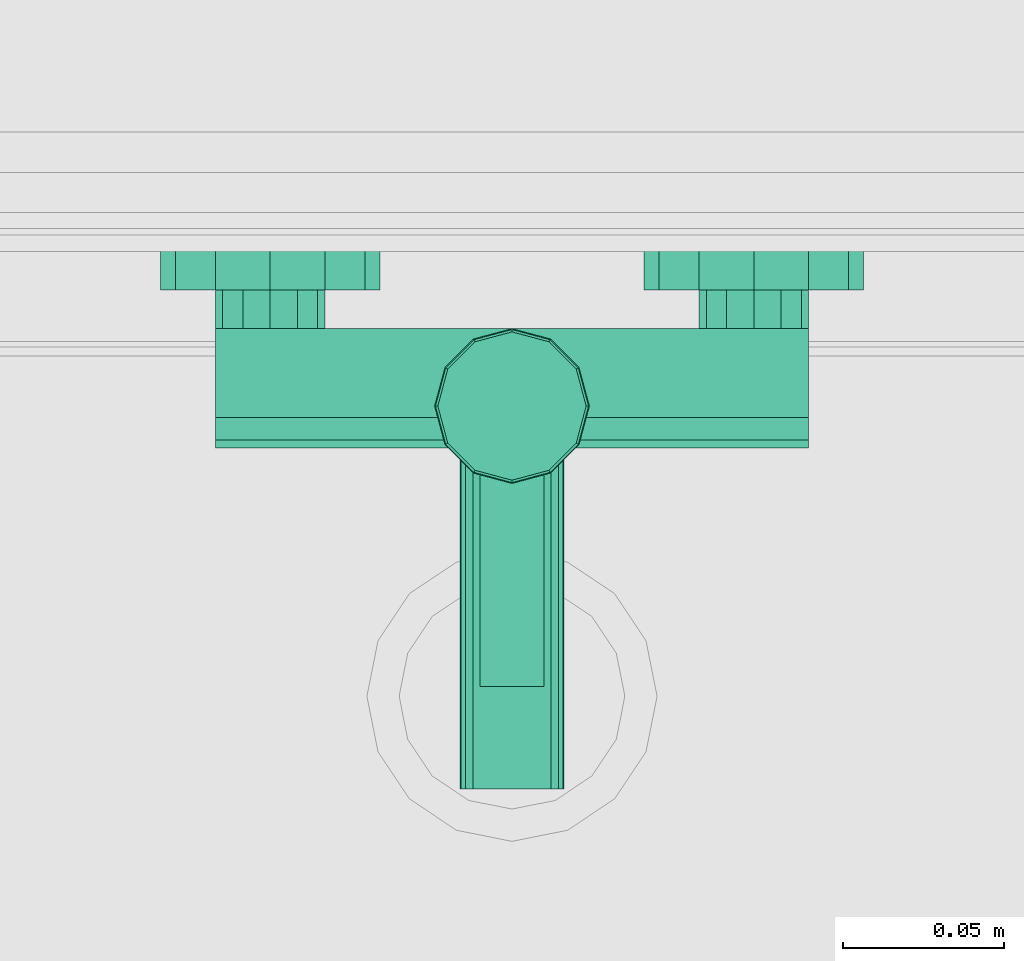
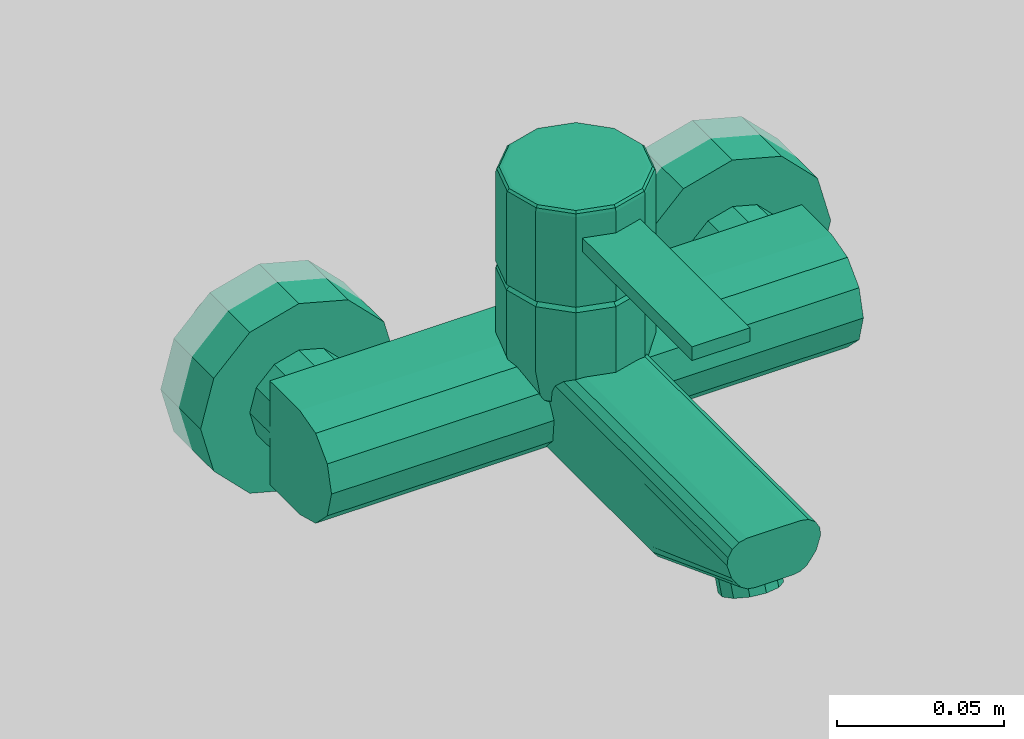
# One storey, part 108 of 137: 1 flow storage device.
"""IFC2X3 building model written with IfcOpenShell, lengths in millimetres."""

from ifc_helpers import new_model, entity, si_unit, converted_unit, derived_unit, money_unit, direction, frame, origin_with_axes, place, context, subcontext, project, spatial, open_shell, faceted_brep, surface_model, source, transform, mapped, type_object, type_shapes, element, save


model = new_model("IFC2X3")

# Units and contexts
model_context = context("Model", 3, precision=0.01, world=origin_with_axes(), true_north=direction((0.0, 1.0)))
body_context = subcontext(model_context, "Body", "Model", "MODEL_VIEW")
ifc_project = project(units=[si_unit("LENGTHUNIT", "METRE", prefix="MILLI"), si_unit("AREAUNIT", "SQUARE_METRE"), si_unit("VOLUMEUNIT", "CUBIC_METRE"), converted_unit("PLANEANGLEUNIT", "DEGREE", entity("IfcPlaneAngleMeasure", 0.0174532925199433), si_unit("PLANEANGLEUNIT", "RADIAN"), dimensions=[0, 0, 0, 0, 0, 0, 0]), money_unit("EUR"), converted_unit("TIMEUNIT", "Year", entity("IfcTimeMeasure", 31556926.0), si_unit("TIMEUNIT", "SECOND"), dimensions=[0, 0, 1, 0, 0, 0, 0]), si_unit("MASSUNIT", "GRAM", prefix="KILO"), si_unit("THERMODYNAMICTEMPERATUREUNIT", "DEGREE_CELSIUS"), si_unit("LUMINOUSINTENSITYUNIT", "LUMEN"), si_unit("ENERGYUNIT", "JOULE", prefix="MEGA"), derived_unit("THERMALCONDUCTANCEUNIT", [(si_unit("POWERUNIT", "WATT"), 1), (si_unit("LENGTHUNIT", "METRE"), -1), (si_unit("THERMODYNAMICTEMPERATUREUNIT", "KELVIN"), -1)]), derived_unit("SPECIFICHEATCAPACITYUNIT", [(si_unit("ENERGYUNIT", "JOULE"), 1), (si_unit("MASSUNIT", "GRAM", prefix="KILO"), -1), (si_unit("THERMODYNAMICTEMPERATUREUNIT", "KELVIN"), -1)]), derived_unit("MASSDENSITYUNIT", [(si_unit("MASSUNIT", "GRAM", prefix="KILO"), 1), (si_unit("VOLUMEUNIT", "CUBIC_METRE"), -1)])], contexts=[model_context])

# Site, building, storey
site_placement = place(None, origin_with_axes())
site = spatial("IfcSite", under=ifc_project, at=site_placement, Name="Site", CompositionType="ELEMENT")
building_placement = place(site_placement, origin_with_axes())
building = spatial("IfcBuilding", under=site, at=building_placement, Name="Naam gebouw", CompositionType="ELEMENT")
storey_placement = place(building_placement, frame((0.0, 0.0, 3960.0), z_axis=(0.0, 0.0, 1.0), x_axis=(1.0, 0.0, 0.0)))
storey = spatial("IfcBuildingStorey", under=building, at=storey_placement, Name="1e verdieping", CompositionType="ELEMENT", Elevation=3960.0)

# Flow storage device
tank_type = type_object("IfcTankType", Name="Kraan wand 26", PredefinedType="EXPANSION")
shared_shape = source(origin_with_axes(), body_context, "Body", "SurfaceModel", [
    faceted_brep([(-45.55513627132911, 0.0, 1183.0), (-58.00000000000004, 0.0, 1170.555136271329), (-75.00000000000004, 0.0, 1166.0), (-92.00000000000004, 0.0, 1170.555136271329), (-104.4448637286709, 0.0, 1183.0), (-109.0, 0.0, 1200.0), (-104.4448637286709, 0.0, 1217.0), (-92.0, 0.0, 1229.444863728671), (-75.0, 0.0, 1234.0), (-58.0, 0.0, 1229.444863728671), (-45.5551362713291, 0.0, 1217.0), (-41.00000000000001, 0.0, 1200.0), (-45.55513627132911, -24.0, 1183.0), (-58.00000000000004, -24.0, 1170.555136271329), (-75.00000000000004, -24.0, 1166.0), (-92.00000000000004, -24.0, 1170.555136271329), (-104.4448637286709, -24.0, 1183.0), (-109.0, -24.0, 1200.0), (-104.4448637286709, -24.0, 1217.0), (-92.0, -24.0, 1229.444863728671), (-75.0, -24.0, 1234.0), (-58.0, -24.0, 1229.444863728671), (-45.5551362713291, -24.0, 1217.0), (-41.00000000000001, -24.0, 1200.0)], [[[0, 1, 2, 3, 4, 5, 6, 7, 8, 9, 10, 11]], [[1, 0, 12, 13]], [[2, 1, 13, 14]], [[3, 2, 14, 15]], [[4, 3, 15, 16]], [[5, 4, 16, 17]], [[6, 5, 17, 18]], [[7, 6, 18, 19]], [[8, 7, 19, 20]], [[9, 8, 20, 21]], [[10, 9, 21, 22]], [[11, 10, 22, 23]], [[0, 11, 23, 12]], [[12, 23, 22, 21, 20, 19, 18, 17, 16, 15, 14, 13]]]),
    faceted_brep([(-60.27756813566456, -24.0, 1191.5), (-66.50000000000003, -24.0, 1185.277568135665), (-75.00000000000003, -24.0, 1183.0), (-83.50000000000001, -24.0, 1185.277568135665), (-89.72243186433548, -24.0, 1191.5), (-92.00000000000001, -24.0, 1200.0), (-89.72243186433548, -24.0, 1208.5), (-83.5, -24.0, 1214.722431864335), (-75.00000000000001, -24.0, 1217.0), (-66.5, -24.0, 1214.722431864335), (-60.27756813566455, -24.0, 1208.5), (-58.00000000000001, -24.0, 1200.0), (-60.27756813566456, -36.00000000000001, 1191.5), (-66.50000000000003, -36.00000000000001, 1185.277568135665), (-75.00000000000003, -36.00000000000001, 1183.0), (-83.50000000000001, -36.00000000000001, 1185.277568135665), (-89.72243186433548, -36.00000000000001, 1191.5), (-92.00000000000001, -36.00000000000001, 1200.0), (-89.72243186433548, -36.00000000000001, 1208.5), (-83.5, -36.0, 1214.722431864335), (-75.00000000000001, -36.0, 1217.0), (-66.5, -36.0, 1214.722431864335), (-60.27756813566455, -36.00000000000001, 1208.5), (-58.00000000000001, -36.00000000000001, 1200.0)], [[[0, 1, 2, 3, 4, 5, 6, 7, 8, 9, 10, 11]], [[1, 0, 12, 13]], [[2, 1, 13, 14]], [[3, 2, 14, 15]], [[4, 3, 15, 16]], [[5, 4, 16, 17]], [[6, 5, 17, 18]], [[7, 6, 18, 19]], [[8, 7, 19, 20]], [[9, 8, 20, 21]], [[10, 9, 21, 22]], [[11, 10, 22, 23]], [[0, 11, 23, 12]], [[12, 23, 22, 21, 20, 19, 18, 17, 16, 15, 14, 13]]]),
    faceted_brep([(45.55513627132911, 0.0, 1183.0), (41.00000000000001, 0.0, 1200.0), (45.5551362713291, 0.0, 1217.0), (58.0, 0.0, 1229.444863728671), (75.0, 0.0, 1234.0), (92.0, 0.0, 1229.444863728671), (104.4448637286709, 0.0, 1217.0), (109.0, 0.0, 1200.0), (104.4448637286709, 0.0, 1183.0), (92.00000000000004, 0.0, 1170.555136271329), (75.00000000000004, 0.0, 1166.0), (58.00000000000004, 0.0, 1170.555136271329), (45.55513627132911, -24.0, 1183.0), (41.00000000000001, -24.0, 1200.0), (45.5551362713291, -24.0, 1217.0), (58.0, -24.0, 1229.444863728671), (75.0, -24.0, 1234.0), (92.0, -24.0, 1229.444863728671), (104.4448637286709, -24.0, 1217.0), (109.0, -24.0, 1200.0), (104.4448637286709, -24.0, 1183.0), (92.00000000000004, -24.0, 1170.555136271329), (75.00000000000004, -24.0, 1166.0), (58.00000000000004, -24.0, 1170.555136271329)], [[[0, 1, 2, 3, 4, 5, 6, 7, 8, 9, 10, 11]], [[0, 12, 13, 1]], [[1, 13, 14, 2]], [[2, 14, 15, 3]], [[3, 15, 16, 4]], [[4, 16, 17, 5]], [[5, 17, 18, 6]], [[6, 18, 19, 7]], [[7, 19, 20, 8]], [[8, 20, 21, 9]], [[9, 21, 22, 10]], [[10, 22, 23, 11]], [[11, 23, 12, 0]], [[12, 23, 22, 21, 20, 19, 18, 17, 16, 15, 14, 13]]]),
    faceted_brep([(60.27756813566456, -24.0, 1191.5), (58.00000000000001, -24.0, 1200.0), (60.27756813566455, -24.0, 1208.5), (66.5, -24.0, 1214.722431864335), (75.00000000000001, -24.0, 1217.0), (83.5, -24.0, 1214.722431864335), (89.72243186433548, -24.0, 1208.5), (92.00000000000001, -24.0, 1200.0), (89.72243186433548, -24.0, 1191.5), (83.50000000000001, -24.0, 1185.277568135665), (75.00000000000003, -24.0, 1183.0), (66.50000000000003, -24.0, 1185.277568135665), (60.27756813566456, -36.00000000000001, 1191.5), (58.00000000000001, -36.00000000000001, 1200.0), (60.27756813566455, -36.00000000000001, 1208.5), (66.5, -36.0, 1214.722431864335), (75.00000000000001, -36.0, 1217.0), (83.5, -36.0, 1214.722431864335), (89.72243186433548, -36.00000000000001, 1208.5), (92.00000000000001, -36.00000000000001, 1200.0), (89.72243186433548, -36.00000000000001, 1191.5), (83.50000000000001, -36.00000000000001, 1185.277568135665), (75.00000000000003, -36.00000000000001, 1183.0), (66.50000000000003, -36.00000000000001, 1185.277568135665)], [[[0, 1, 2, 3, 4, 5, 6, 7, 8, 9, 10, 11]], [[0, 12, 13, 1]], [[1, 13, 14, 2]], [[2, 14, 15, 3]], [[3, 15, 16, 4]], [[4, 16, 17, 5]], [[5, 17, 18, 6]], [[6, 18, 19, 7]], [[7, 19, 20, 8]], [[8, 20, 21, 9]], [[9, 21, 22, 10]], [[10, 22, 23, 11]], [[11, 23, 12, 0]], [[12, 23, 22, 21, 20, 19, 18, 17, 16, 15, 14, 13]]]),
    faceted_brep([(22.39230484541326, -54.0, 1219.0), (23.56921938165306, -59.99999999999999, 1217.392304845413), (22.3801085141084, -63.5, 1216.454482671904), (92.0, -63.5, 1216.454482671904), (92.0, -54.0, 1219.0), (24.0, -59.99999999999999, 1219.0), (20.78460969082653, -72.0, 1219.0), (18.42264973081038, -70.63632178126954, 1208.821367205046), (18.65321248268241, -70.45448267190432, 1209.5), (92.0, -70.45448267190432, 1209.5), (92.0, -36.00000000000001, 1181.0), (92.0, -36.00000000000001, 1219.0), (92.0, -73.00000000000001, 1200.0), (92.0, -70.45448267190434, 1190.5), (92.0, -63.5, 1183.545517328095), (92.0, -54.00000000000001, 1181.0), (20.78460969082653, -47.99999999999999, 1219.0), (0.0, -36.00000000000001, 1219.0), (12.0, -39.21539030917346, 1219.0), (20.78460969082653, -47.99999999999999, 1243.0), (24.0, -59.99999999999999, 1243.0), (20.78460969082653, -72.0, 1243.0), (17.26794919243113, -71.12435565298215, 1207.0), (12.00000000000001, -80.78460969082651, 1219.0), (11.92314238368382, -80.65148839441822, 1218.426326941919), (12.07189135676, -80.49116546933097, 1218.39470631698), (14.42686544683, -77.50984837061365, 1216.68350539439), (15.88213414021, -75.13176694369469, 1214.16233412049), (16.18602173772, -73.76818909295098, 1211.26720650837), (15.73684210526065, -72.65546274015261, 1207.0), (15.6314139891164, -71.39272474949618, 1205.998432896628), (14.99999999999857, -73.00000000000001, 1200.0), (-92.0, -36.00000000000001, 1181.0), (-92.0, -36.00000000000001, 1219.0), (14.00000000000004, -70.45448267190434, 1190.5), (12.93483876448, -64.77581392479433, 1184.82133125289), (11.95567316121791, -63.5, 1183.545517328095), (13.65970594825, -67.22168918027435, 1187.26720650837), (9.206486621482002, -55.73480068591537, 1181.46483844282), (6.698167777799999, -54.00000000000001, 1181.0), (11.38167317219, -60.70880215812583, 1182.79761812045), (-6.698167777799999, -54.00000000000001, 1181.0), (-92.0, -54.00000000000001, 1181.0), (6.698167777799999, -128.7, 1181.0), (-6.698167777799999, -128.7, 1181.0), (0.0, -36.00000000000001, 1243.0), (12.0, -39.21539030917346, 1243.0), (19.05255888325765, -48.99999999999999, 1245.0), (22.0, -59.99999999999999, 1245.0), (19.05255888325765, -71.0, 1245.0), (12.00000000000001, -80.78460969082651, 1243.0), (9.224483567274, -81.52830707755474, 1219.0), (9.224483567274, -178.7, 1219.0), (12.07189135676, -178.7, 1218.39470631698), (14.42686544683, -178.7, 1216.68350539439), (15.88213414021, -178.7, 1214.16233412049), (16.18602173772, -178.7, 1211.26720650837), (13.65970594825, -128.7, 1187.26720650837), (-92.0, -54.0, 1219.0), (-92.0, -63.5, 1183.545517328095), (-92.0, -70.45448267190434, 1190.5), (-92.0, -73.00000000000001, 1200.0), (-92.0, -70.45448267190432, 1209.5), (-92.0, -63.5, 1216.454482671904), (-12.00000000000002, -39.21539030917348, 1219.0), (-22.39230484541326, -54.0, 1219.0), (-20.78460969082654, -48.00000000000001, 1219.0), (12.93483876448, -128.7, 1184.82133125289), (11.38167317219, -128.7, 1182.79761812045), (9.206486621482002, -128.7, 1181.46483844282), (-11.38167317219, -60.70880215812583, 1182.79761812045), (-11.95567316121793, -63.5, 1183.545517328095), (-9.206486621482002, -55.73480068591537, 1181.46483844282), (-6.698167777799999, -156.6122297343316, 1191.606647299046), (6.698167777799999, -156.6122297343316, 1191.606647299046), (5.000000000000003, -155.02481037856, 1191.003427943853), (0.0, -153.7724378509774, 1190.527526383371), (-4.999999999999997, -155.02481037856, 1191.003427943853), (-9.206486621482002, -128.7, 1181.46483844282), (-12.00000000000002, -39.21539030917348, 1243.0), (0.0, -38.00000000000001, 1245.0), (11.0, -40.94744111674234, 1245.0), (-20.78460969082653, -47.99999999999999, 1245.0), (-12.0, -39.21539030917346, 1245.0), (0.0, -36.00000000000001, 1245.0), (12.00000000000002, -39.21539030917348, 1245.0), (20.78460969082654, -48.00000000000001, 1245.0), (24.0, -60.00000000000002, 1245.0), (20.78460969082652, -72.00000000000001, 1245.0), (11.99999999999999, -80.78460969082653, 1245.0), (0.0, -83.99999999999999, 1245.0), (-12.00000000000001, -80.78460969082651, 1245.0), (-20.78460969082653, -72.0, 1245.0), (-24.0, -59.99999999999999, 1245.0), (11.00000000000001, -79.05255888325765, 1245.0), (-11.00000000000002, -40.94744111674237, 1245.0), (-19.05255888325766, -49.00000000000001, 1245.0), (-22.0, -60.00000000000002, 1245.0), (-19.05255888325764, -71.00000000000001, 1245.0), (-10.99999999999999, -79.05255888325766, 1245.0), (0.0, -81.99999999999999, 1245.0), (0.0, -83.99999999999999, 1243.0), (0.0, -83.99999999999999, 1219.0), (-15.88213414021, -178.7, 1214.16233412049), (-16.18602173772, -178.7, 1211.26720650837), (-14.65970594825, -178.7, 1206.26720650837), (-12.93483876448, -178.7, 1203.82133125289), (-11.38167317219, -178.7, 1201.79761812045), (-9.206486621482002, -178.7, 1200.46483844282), (-6.698167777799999, -178.7, 1200.0), (6.698167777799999, -178.7, 1200.0), (9.206486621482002, -178.7, 1200.46483844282), (11.38167317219, -178.7, 1201.79761812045), (12.93483876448, -178.7, 1203.82133125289), (14.65970594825, -178.7, 1206.26720650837), (-9.224483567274, -178.7, 1219.0), (-12.07189135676, -178.7, 1218.39470631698), (-14.42686544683, -178.7, 1216.68350539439), (-9.224483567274, -81.52830707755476, 1219.0), (-13.65970594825, -67.22168918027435, 1187.26720650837), (-14.00000000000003, -70.45448267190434, 1190.5), (-12.93483876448, -64.77581392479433, 1184.82133125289), (-14.99999999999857, -73.00000000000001, 1200.0), (-18.42264973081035, -70.63632178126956, 1208.821367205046), (-18.65321248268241, -70.45448267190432, 1209.5), (-15.63141398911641, -71.39272474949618, 1205.998432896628), (-17.26794919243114, -71.12435565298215, 1207.0), (-22.38010851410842, -63.5, 1216.454482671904), (-23.56921938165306, -60.00000000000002, 1217.392304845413), (-24.0, -60.00000000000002, 1219.0), (-24.0, -60.00000000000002, 1243.0), (-20.78460969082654, -48.00000000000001, 1243.0), (9.206486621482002, -160.1976250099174, 1193.433935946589), (8.660254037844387, -158.3256179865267, 1192.621346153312), (9.206486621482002, -165.7342214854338, 1195.537842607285), (10.0, -162.8044792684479, 1194.910741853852), (-11.38167317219, -128.7, 1182.79761812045), (-12.93483876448, -128.7, 1184.82133125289), (-9.206486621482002, -160.1976250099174, 1193.433935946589), (-8.660254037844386, -158.3256179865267, 1192.621346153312), (8.660254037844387, -160.222444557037, 1187.629697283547), (5.000000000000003, -156.8008991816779, 1186.329510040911), (0.0, -155.5485266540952, 1185.85360848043), (-4.999999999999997, -156.8008991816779, 1186.329510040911), (-8.660254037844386, -160.222444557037, 1187.629697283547), (-20.78460969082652, -47.99999999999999, 1278.0), (-12.0, -39.21539030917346, 1278.0), (0.0, -36.00000000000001, 1278.0), (12.00000000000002, -39.21539030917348, 1278.0), (20.78460969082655, -48.00000000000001, 1278.0), (24.0, -60.00000000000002, 1278.0), (20.78460969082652, -72.00000000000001, 1278.0), (11.99999999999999, -80.78460969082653, 1278.0), (0.0, -83.99999999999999, 1278.0), (0.0, -83.99999999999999, 1270.0), (10.0, -81.32050807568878, 1270.0), (10.0, -81.32050807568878, 1265.0), (0.0, -83.99999999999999, 1265.0), (-10.0, -81.32050807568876, 1265.0), (-10.0, -81.32050807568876, 1270.0), (-12.00000000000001, -80.78460969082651, 1278.0), (-20.78460969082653, -72.0, 1278.0), (-24.0, -59.99999999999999, 1278.0), (-20.78460969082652, -72.00000000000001, 1243.0), (-11.99999999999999, -80.78460969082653, 1243.0), (-11.99999999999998, -80.78460969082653, 1219.0), (-15.88213414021, -75.1317669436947, 1214.16233412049), (-16.18602173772, -73.76818909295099, 1211.26720650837), (-16.18602173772, -128.7, 1211.26720650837), (-13.65970594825, -128.7, 1187.26720650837), (-10.0, -162.8044792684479, 1194.910741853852), (-9.206486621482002, -165.7342214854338, 1195.537842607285), (-8.66025403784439, -167.6734537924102, 1196.173523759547), (-6.698167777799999, -169.6283175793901, 1196.552760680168), (0.0, -172.4681094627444, 1197.631881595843), (4.999999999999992, -171.2157369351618, 1197.155980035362), (6.698167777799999, -169.6283175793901, 1196.552760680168), (-5.000000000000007, -171.2157369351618, 1197.155980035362), (8.660254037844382, -167.6734537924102, 1196.173523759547), (-11.92314238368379, -80.65148839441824, 1218.426326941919), (-12.07189135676, -80.49116546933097, 1218.39470631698), (-14.42686544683, -77.50984837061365, 1216.68350539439), (-15.73684210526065, -72.65546274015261, 1207.0), (-20.78460969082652, -72.00000000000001, 1219.0), (10.0, -164.8963624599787, 1189.405786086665), (8.660254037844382, -169.5702803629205, 1191.181874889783), (-10.0, -164.8963624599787, 1189.405786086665), (4.999999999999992, -172.9918257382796, 1192.48206213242), (0.0, -174.2441982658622, 1192.957963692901), (-5.000000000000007, -172.9918257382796, 1192.48206213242), (-8.66025403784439, -169.5702803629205, 1191.181874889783), (-20.55255888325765, -48.13397459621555, 1279.0), (-11.86602540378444, -39.44744111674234, 1279.0), (0.0, -36.26794919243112, 1279.0), (11.86602540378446, -39.44744111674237, 1279.0), (20.55255888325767, -48.13397459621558, 1279.0), (23.73205080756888, -60.00000000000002, 1279.0), (20.55255888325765, -71.86602540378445, 1279.0), (11.86602540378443, -80.55255888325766, 1279.0), (10.0, -147.0, 1270.0), (-10.0, -147.0, 1270.0), (10.0, -147.0, 1265.0), (-10.0, -147.0, 1265.0), (0.0, -83.73205080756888, 1279.0), (-11.86602540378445, -80.55255888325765, 1279.0), (-20.55255888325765, -71.86602540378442, 1279.0), (-23.73205080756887, -59.99999999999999, 1279.0), (-19.91858428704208, -48.49999999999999, 1279.732050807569), (-11.5, -40.08141571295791, 1279.732050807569), (0.0, -37.00000000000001, 1279.732050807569), (11.50000000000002, -40.08141571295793, 1279.732050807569), (19.9185842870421, -48.50000000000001, 1279.732050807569), (23.0, -60.00000000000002, 1279.732050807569), (19.91858428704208, -71.50000000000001, 1279.732050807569), (11.49999999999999, -79.9185842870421, 1279.732050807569), (0.0, -82.99999999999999, 1279.732050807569), (-11.50000000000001, -79.91858428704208, 1279.732050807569), (-19.91858428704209, -71.5, 1279.732050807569), (-23.0, -59.99999999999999, 1279.732050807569), (-19.05255888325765, -48.99999999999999, 1280.0), (-11.0, -40.94744111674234, 1280.0), (0.0, -38.00000000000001, 1280.0), (11.00000000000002, -40.94744111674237, 1280.0), (19.05255888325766, -49.00000000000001, 1280.0), (22.0, -60.00000000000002, 1280.0), (19.05255888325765, -71.00000000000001, 1280.0), (10.99999999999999, -79.05255888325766, 1280.0), (0.0, -81.99999999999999, 1280.0), (-11.00000000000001, -79.05255888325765, 1280.0), (-19.05255888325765, -71.0, 1280.0), (-22.0, -59.99999999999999, 1280.0), (0.0, -60.0, 1280.0)], [[[0, 1, 2, 3, 4]], [[1, 0, 5]], [[2, 1, 5, 6, 7, 8]], [[2, 8, 9, 3]], [[10, 11, 4, 3, 9, 12, 13, 14, 15]], [[16, 0, 4, 11, 17, 18]], [[0, 16, 19, 20, 5]], [[20, 21, 6, 5]], [[22, 7, 6, 23, 24, 25, 26, 27, 28, 29]], [[30, 31, 12, 9, 8, 7, 22]], [[10, 32, 33, 17, 11]], [[31, 34, 13, 12]], [[35, 36, 14, 13, 34, 37]], [[38, 39, 15, 14, 36, 40]], [[41, 42, 32, 10, 15, 39, 43, 44]], [[18, 17, 45, 46]], [[16, 18, 46, 19]], [[19, 47, 48, 20]], [[20, 48, 49, 21]], [[21, 50, 23, 6]], [[23, 51, 24]], [[52, 53, 25, 24, 51]], [[53, 54, 26, 25]], [[54, 55, 27, 26]], [[56, 28, 27, 55]], [[31, 30, 29, 28, 56, 57, 37, 34]], [[30, 22, 29]], [[58, 33, 32, 42, 59, 60, 61, 62, 63]], [[64, 17, 33, 58, 65, 66]], [[36, 35, 67, 68, 40]], [[35, 37, 57, 67]], [[39, 38, 69, 43]], [[38, 40, 68, 69]], [[70, 71, 59, 42, 41, 72]], [[73, 44, 43, 74, 75, 76, 77]], [[72, 41, 44, 78]], [[17, 64, 79, 45]], [[45, 80, 81, 46]], [[46, 81, 47, 19]], [[82, 83, 84, 85, 86, 87, 88, 89, 90, 91, 92, 93], [94, 49, 48, 47, 81, 80, 95, 96, 97, 98, 99, 100]], [[21, 49, 94, 50]], [[101, 102, 51, 23, 50]], [[103, 104, 105, 106, 107, 108, 109, 110, 111, 112, 113, 114, 56, 55, 54, 53, 52, 115, 116, 117]], [[115, 52, 51, 102, 118]], [[56, 114, 57]], [[119, 120, 60, 59, 71, 121]], [[120, 122, 61, 60]], [[123, 124, 62, 61, 122, 125, 126]], [[124, 127, 63, 62]], [[128, 65, 58, 63, 127]], [[66, 65, 129, 130, 131]], [[64, 66, 131, 79]], [[112, 68, 67, 113]], [[114, 67, 57]], [[74, 43, 69, 132, 133]], [[132, 69, 68, 112, 111, 134, 135]], [[71, 70, 136, 137, 121]], [[70, 72, 78, 136]], [[138, 78, 44, 73, 139]], [[75, 74, 133, 140, 141]], [[142, 76, 75, 141]], [[143, 77, 76, 142]], [[139, 73, 77, 143, 144]], [[79, 95, 80, 45]], [[83, 82, 145, 146]], [[84, 83, 146, 147]], [[85, 84, 147, 148]], [[86, 85, 148, 149]], [[87, 86, 149, 150]], [[88, 87, 150, 151]], [[89, 88, 151, 152]], [[153, 154, 155, 156, 157, 90, 89, 152]], [[158, 159, 154, 153, 160, 91, 90, 157]], [[92, 91, 160, 161]], [[93, 92, 161, 162]], [[82, 93, 162, 145]], [[131, 96, 95, 79]], [[130, 97, 96, 131]], [[163, 98, 97, 130]], [[164, 99, 98, 163]], [[101, 100, 99, 164]], [[50, 94, 100, 101]], [[165, 118, 102, 101, 164]], [[104, 103, 166, 167, 168]], [[105, 104, 168]], [[106, 105, 169]], [[106, 137, 136, 107]], [[107, 136, 78, 138, 170, 171, 108]], [[171, 172, 173, 109, 108]], [[174, 175, 176, 110, 109, 173, 177]], [[176, 178, 134, 111, 110]], [[114, 113, 67]], [[116, 115, 118, 179, 180]], [[117, 116, 180, 181]], [[103, 117, 181, 166]], [[120, 119, 169, 168, 167, 182, 125, 122]], [[119, 121, 137, 169]], [[124, 123, 183, 129, 128, 127]], [[126, 125, 182]], [[123, 126, 182, 167, 166, 181, 180, 179, 165, 183]], [[65, 128, 129]], [[163, 130, 129, 183]], [[133, 132, 135, 184, 140]], [[135, 134, 178, 185, 184]], [[170, 138, 139, 144, 186]], [[140, 184, 185, 187, 188, 189, 190, 186, 144, 143, 142, 141]], [[146, 145, 191, 192]], [[147, 146, 192, 193]], [[148, 147, 193, 194]], [[149, 148, 194, 195]], [[150, 149, 195, 196]], [[151, 150, 196, 197]], [[152, 151, 197, 198]], [[199, 155, 154, 159, 200]], [[201, 156, 155, 199]], [[158, 157, 156, 201, 202]], [[153, 152, 198, 203]], [[200, 159, 158, 202]], [[160, 153, 203, 204]], [[161, 160, 204, 205]], [[162, 161, 205, 206]], [[145, 162, 206, 191]], [[164, 163, 183, 165]], [[165, 179, 118]], [[105, 168, 169]], [[106, 169, 137]], [[172, 171, 170, 186, 190]], [[177, 173, 172, 190, 189]], [[187, 175, 174, 188]], [[178, 176, 175, 187, 185]], [[188, 174, 177, 189]], [[192, 191, 207, 208]], [[193, 192, 208, 209]], [[194, 193, 209, 210]], [[195, 194, 210, 211]], [[196, 195, 211, 212]], [[197, 196, 212, 213]], [[198, 197, 213, 214]], [[199, 200, 202, 201]], [[203, 198, 214, 215]], [[204, 203, 215, 216]], [[205, 204, 216, 217]], [[206, 205, 217, 218]], [[191, 206, 218, 207]], [[208, 207, 219, 220]], [[209, 208, 220, 221]], [[210, 209, 221, 222]], [[211, 210, 222, 223]], [[212, 211, 223, 224]], [[213, 212, 224, 225]], [[214, 213, 225, 226]], [[215, 214, 226, 227]], [[216, 215, 227, 228]], [[217, 216, 228, 229]], [[218, 217, 229, 230]], [[207, 218, 230, 219]], [[220, 219, 231]], [[221, 220, 231]], [[222, 221, 231]], [[223, 222, 231]], [[224, 223, 231]], [[225, 224, 231]], [[226, 225, 231]], [[227, 226, 231]], [[228, 227, 231]], [[229, 228, 231]], [[230, 229, 231]], [[219, 230, 231]]]),
    surface_model("IfcShellBasedSurfaceModel", [(-75.0, 0.0, 1186.5), (-77.34425039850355, 0.0, 1186.705095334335), (-77.34425039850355, 20.0, 1186.705095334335), (-75.0, 20.0, 1186.5), (-79.61727193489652, 0.0, 1187.31414961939), (-79.61727193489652, 20.0, 1187.31414961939), (-72.65574960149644, 0.0, 1186.705095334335), (-72.65574960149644, 20.0, 1186.705095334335), (-81.74999999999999, 0.0, 1188.30865704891), (-81.74999999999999, 20.0, 1188.30865704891), (-70.38272806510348, 0.0, 1187.31414961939), (-70.38272806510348, 20.0, 1187.31414961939), (-83.67763273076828, 0.0, 1189.658400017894), (-83.67763273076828, 20.0, 1189.658400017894), (-68.25, 0.0, 1188.30865704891), (-68.25, 20.0, 1188.30865704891), (-85.34159998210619, 0.0, 1191.322367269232), (-85.34159998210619, 20.0, 1191.322367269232), (-66.32236726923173, 0.0, 1189.658400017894), (-66.32236726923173, 20.0, 1189.658400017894), (-86.69134295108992, 0.0, 1193.25), (-86.69134295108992, 20.0, 1193.25), (-64.65840001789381, 0.0, 1191.322367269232), (-64.65840001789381, 20.0, 1191.322367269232), (-87.68585038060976, 0.0, 1195.382728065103), (-87.68585038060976, 20.0, 1195.382728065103), (-63.30865704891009, 0.0, 1193.25), (-63.30865704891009, 20.0, 1193.25), (-88.2949046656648, 0.0, 1197.655749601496), (-88.2949046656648, 20.0, 1197.655749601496), (-62.31414961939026, 0.0, 1195.382728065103), (-62.31414961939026, 20.0, 1195.382728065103), (-88.5, 0.0, 1200.0), (-88.5, 20.0, 1200.0), (-61.7050953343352, 0.0, 1197.655749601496), (-61.7050953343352, 20.0, 1197.655749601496), (-88.2949046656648, 0.0, 1202.344250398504), (-88.2949046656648, 20.0, 1202.344250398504), (-61.50000000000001, 0.0, 1200.0), (-61.50000000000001, 20.0, 1200.0), (-87.68585038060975, 0.0, 1204.617271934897), (-87.68585038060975, 20.0, 1204.617271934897), (-61.7050953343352, 0.0, 1202.344250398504), (-61.7050953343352, 20.0, 1202.344250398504), (-86.69134295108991, 0.0, 1206.75), (-86.69134295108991, 20.0, 1206.75), (-62.31414961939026, 0.0, 1204.617271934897), (-62.31414961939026, 20.0, 1204.617271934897), (-85.34159998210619, 0.0, 1208.677632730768), (-85.34159998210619, 20.0, 1208.677632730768), (-63.30865704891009, 0.0, 1206.75), (-63.30865704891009, 20.0, 1206.75), (-83.67763273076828, 0.0, 1210.341599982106), (-83.67763273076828, 20.0, 1210.341599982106), (-64.6584000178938, 0.0, 1208.677632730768), (-64.6584000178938, 20.0, 1208.677632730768), (-81.74999999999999, 0.0, 1211.69134295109), (-81.74999999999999, 20.0, 1211.69134295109), (-66.32236726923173, 0.0, 1210.341599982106), (-66.32236726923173, 20.0, 1210.341599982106), (-79.61727193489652, 0.0, 1212.68585038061), (-79.61727193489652, 20.0, 1212.68585038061), (-68.25, 0.0, 1211.69134295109), (-68.25, 20.0, 1211.69134295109), (-77.34425039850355, 0.0, 1213.294904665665), (-77.34425039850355, 20.0, 1213.294904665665), (-70.38272806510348, 0.0, 1212.68585038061), (-70.38272806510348, 20.0, 1212.68585038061), (-75.0, 0.0, 1213.5), (-75.0, 20.0, 1213.5), (-72.65574960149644, 0.0, 1213.294904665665), (-72.65574960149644, 20.0, 1213.294904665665)], [open_shell([[[0, 1, 2, 3]], [[1, 4, 5, 2]], [[6, 0, 3, 7]], [[4, 8, 9, 5]], [[10, 6, 7, 11]], [[8, 12, 13, 9]], [[14, 10, 11, 15]], [[12, 16, 17, 13]], [[18, 14, 15, 19]], [[16, 20, 21, 17]], [[22, 18, 19, 23]], [[20, 24, 25, 21]], [[26, 22, 23, 27]], [[24, 28, 29, 25]], [[30, 26, 27, 31]], [[28, 32, 33, 29]], [[34, 30, 31, 35]], [[32, 36, 37, 33]], [[38, 34, 35, 39]], [[36, 40, 41, 37]], [[42, 38, 39, 43]], [[40, 44, 45, 41]], [[46, 42, 43, 47]], [[44, 48, 49, 45]], [[50, 46, 47, 51]], [[48, 52, 53, 49]], [[54, 50, 51, 55]], [[52, 56, 57, 53]], [[58, 54, 55, 59]], [[56, 60, 61, 57]], [[62, 58, 59, 63]], [[60, 64, 65, 61]], [[66, 62, 63, 67]], [[64, 68, 69, 65]], [[70, 66, 67, 71]], [[68, 70, 71, 69]]])]),
    surface_model("IfcShellBasedSurfaceModel", [(75.0, 0.0, 1186.5), (72.65574960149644, 0.0, 1186.705095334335), (72.65574960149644, 20.0, 1186.705095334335), (75.0, 20.0, 1186.5), (70.38272806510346, 0.0, 1187.31414961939), (70.38272806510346, 20.0, 1187.31414961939), (77.34425039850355, 0.0, 1186.705095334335), (77.34425039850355, 20.0, 1186.705095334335), (68.25, 0.0, 1188.30865704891), (68.25, 20.0, 1188.30865704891), (79.61727193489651, 0.0, 1187.31414961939), (79.61727193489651, 20.0, 1187.31414961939), (66.32236726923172, 0.0, 1189.658400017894), (66.32236726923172, 20.0, 1189.658400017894), (81.74999999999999, 0.0, 1188.30865704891), (81.74999999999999, 20.0, 1188.30865704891), (64.6584000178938, 0.0, 1191.322367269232), (64.6584000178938, 20.0, 1191.322367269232), (83.67763273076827, 0.0, 1189.658400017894), (83.67763273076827, 20.0, 1189.658400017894), (63.30865704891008, 0.0, 1193.25), (63.30865704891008, 20.0, 1193.25), (85.34159998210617, 0.0, 1191.322367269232), (85.34159998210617, 20.0, 1191.322367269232), (62.31414961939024, 0.0, 1195.382728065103), (62.31414961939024, 20.0, 1195.382728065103), (86.69134295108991, 0.0, 1193.25), (86.69134295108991, 20.0, 1193.25), (61.70509533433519, 0.0, 1197.655749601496), (61.70509533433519, 20.0, 1197.655749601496), (87.68585038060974, 0.0, 1195.382728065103), (87.68585038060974, 20.0, 1195.382728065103), (61.5, 0.0, 1200.0), (61.5, 20.0, 1200.0), (88.29490466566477, 0.0, 1197.655749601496), (88.29490466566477, 20.0, 1197.655749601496), (61.70509533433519, 0.0, 1202.344250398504), (61.70509533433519, 20.0, 1202.344250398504), (88.49999999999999, 0.0, 1200.0), (88.49999999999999, 20.0, 1200.0), (62.31414961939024, 0.0, 1204.617271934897), (62.31414961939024, 20.0, 1204.617271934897), (88.29490466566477, 0.0, 1202.344250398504), (88.29490466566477, 20.0, 1202.344250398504), (63.30865704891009, 0.0, 1206.75), (63.30865704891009, 20.0, 1206.75), (87.68585038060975, 0.0, 1204.617271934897), (87.68585038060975, 20.0, 1204.617271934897), (64.6584000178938, 0.0, 1208.677632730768), (64.6584000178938, 20.0, 1208.677632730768), (86.69134295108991, 0.0, 1206.75), (86.69134295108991, 20.0, 1206.75), (66.32236726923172, 0.0, 1210.341599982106), (66.32236726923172, 20.0, 1210.341599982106), (85.34159998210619, 0.0, 1208.677632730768), (85.34159998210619, 20.0, 1208.677632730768), (68.25, 0.0, 1211.69134295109), (68.25, 20.0, 1211.69134295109), (83.67763273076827, 0.0, 1210.341599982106), (83.67763273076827, 20.0, 1210.341599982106), (70.38272806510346, 0.0, 1212.68585038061), (70.38272806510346, 20.0, 1212.68585038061), (81.74999999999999, 0.0, 1211.69134295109), (81.74999999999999, 20.0, 1211.69134295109), (72.65574960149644, 0.0, 1213.294904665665), (72.65574960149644, 20.0, 1213.294904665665), (79.61727193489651, 0.0, 1212.68585038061), (79.61727193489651, 20.0, 1212.68585038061), (75.0, 0.0, 1213.5), (75.0, 20.0, 1213.5), (77.34425039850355, 0.0, 1213.294904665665), (77.34425039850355, 20.0, 1213.294904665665)], [open_shell([[[0, 1, 2, 3]], [[1, 4, 5, 2]], [[6, 0, 3, 7]], [[4, 8, 9, 5]], [[10, 6, 7, 11]], [[8, 12, 13, 9]], [[14, 10, 11, 15]], [[12, 16, 17, 13]], [[18, 14, 15, 19]], [[16, 20, 21, 17]], [[22, 18, 19, 23]], [[20, 24, 25, 21]], [[26, 22, 23, 27]], [[24, 28, 29, 25]], [[30, 26, 27, 31]], [[28, 32, 33, 29]], [[34, 30, 31, 35]], [[32, 36, 37, 33]], [[38, 34, 35, 39]], [[36, 40, 41, 37]], [[42, 38, 39, 43]], [[40, 44, 45, 41]], [[46, 42, 43, 47]], [[44, 48, 49, 45]], [[50, 46, 47, 51]], [[48, 52, 53, 49]], [[54, 50, 51, 55]], [[52, 56, 57, 53]], [[58, 54, 55, 59]], [[56, 60, 61, 57]], [[62, 58, 59, 63]], [[60, 64, 65, 61]], [[66, 62, 63, 67]], [[64, 68, 69, 65]], [[70, 66, 67, 71]], [[68, 70, 71, 69]]])]),
])
type_shapes(tank_type, [shared_shape])
flow_storage_device_placement = place(storey_placement, frame((28499.99998096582, 13074.99777871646, 0.0), z_axis=(0.0, 0.0, 1.0), x_axis=(1.0, 0.0, 0.0)))
element("IfcFlowStorageDevice", 1, at=flow_storage_device_placement, inside=storey, type_object=tank_type, Name="56_Leeg", context=body_context, shape_type="MappedRepresentation", body=[
    mapped(shared_shape, transform((0.0, 0.0, 0.0))),
])

save(model, "model.ifc")
